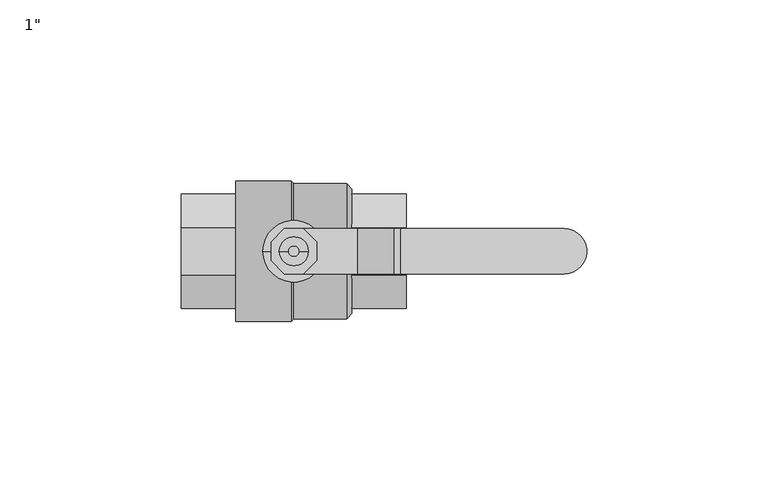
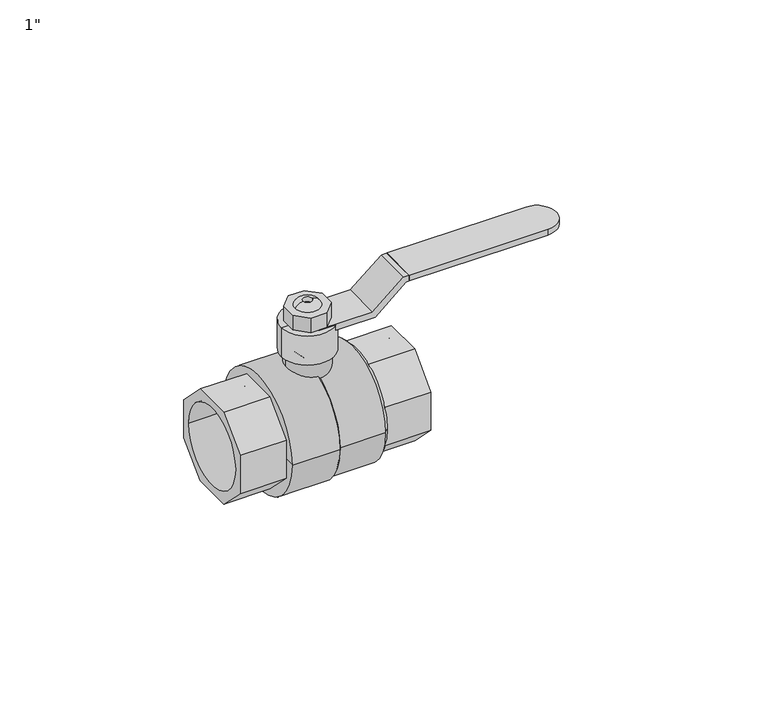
"""IFC4 building model written with IfcOpenShell, lengths in millimetres: pipe fitting geometry."""

from ifc_helpers import new_model, si_unit, point, frame, frame_2d, origin, origin_with_axes, origin_2d, place, context, project, spatial, polyline, circle_curve, ellipse_curve, trimmed, segment, composite_curve, outline, extrude, source, transform, mapped, element, save
from ifc_brep_helpers import plane_surface, cylinder_surface, revolved_surface, advanced_brep


def pipe_fitting_b7146942(model_context):
    return source(origin(), model_context, "Body", "SolidModel", [
        advanced_brep(
        [(1.5, 0.0, 38.0), (-1.5, 0.0, 38.0), (-4.0, 0.0, 38.0), (4.0, 0.0, 38.0), (1.5, 0.0, 39.5), (-1.5, 0.0, 39.5)],
        [
            (0, 1, circle_curve(frame((0.0, 0.0, 38.0), z_axis=(0.0, 0.0, 1.0), x_axis=(-1.0, 0.0, 0.0)), 1.5)),
            (1, 2),
            (2, 3, circle_curve(frame((0.0, 0.0, 38.0), z_axis=(0.0, 0.0, -1.0), x_axis=(-1.0, 0.0, 0.0)), 4.0)),
            (3, 0),
            (1, 0, circle_curve(frame((0.0, 0.0, 38.0), z_axis=(0.0, 0.0, 1.0), x_axis=(-1.0, 0.0, 0.0)), 1.5)),
            (3, 2, circle_curve(frame((0.0, 0.0, 38.0), z_axis=(0.0, 0.0, -1.0), x_axis=(-1.0, 0.0, 0.0)), 4.0)),
            (4, 5, circle_curve(frame((0.0, 0.0, 39.5), z_axis=(0.0, 0.0, 1.0), x_axis=(-1.0, 0.0, 0.0)), 1.5)),
            (5, 1),
            (0, 4),
            (5, 4, circle_curve(frame((0.0, 0.0, 39.5), z_axis=(0.0, 0.0, 1.0), x_axis=(-1.0, 0.0, 0.0)), 1.5)),
            (2, 5, circle_curve(frame((-1.6606207, 0.0, 36.9343679), z_axis=(0.0, 1.0, 0.0), x_axis=(1.0, 0.0, 0.0)), 2.570655)),
            (4, 3, circle_curve(frame((1.6606207, 0.0, 36.9343679), z_axis=(0.0, 1.0, 0.0), x_axis=(-1.0, 0.0, 0.0)), 2.570655)),
        ],
        [
            plane_surface(frame((0.0, 0.0, 38.0), z_axis=(0.0, 0.0, -1.0), x_axis=(-1.0, 0.0, 0.0))),
            revolved_surface(polyline([(-1.5, 0.0, 38.0), (-1.5, 0.0, 39.5)]), (0.0, 0.0, 2223.8150031), (0.0, 0.0, -1.0)),
            revolved_surface(trimmed(ellipse_curve(frame((-1.6606207, 0.0, 36.9343679), z_axis=(0.0, -1.0, 0.0), x_axis=(1.0, 0.0, 0.0)), 2.570655, 2.570655), [point((-1.5, 0.0, 39.5))], [point((-4.0, 0.0, 38.0))], True, "CARTESIAN"), (0.0, 0.0, 2223.8150031), (0.0, 0.0, -1.0)),
        ],
        [
            (0, [[1, 2, 3, 4]]),
            (0, [[5, -4, 6, -2]]),
            (1, [[7, 8, -1, 9]]),
            (1, [[10, -9, -5, -8]]),
            (2, [[-3, 11, -7, 12]]),
            (2, [[-6, -12, -10, -11]]),
        ],
    ),
        extrude(outline(polyline([(-6.2769553, 2.6), (-2.6, 6.2769553), (2.6, 6.2769553), (6.2769553, 2.6), (6.2769553, -2.6), (2.6, -6.2769553), (-2.6, -6.2769553), (-6.2769553, -2.6), (-6.2769553, 2.6)])), frame((0.0, 0.0, 33.0), z_axis=(0.0, 0.0, 1.0), x_axis=(1.0, 0.0, 0.0)), (0.0, 0.0, 1.0), 5.0),
        extrude(outline(composite_curve([segment(trimmed(circle_curve(frame_2d((74.52, 0.0)), 6.25), [point((74.52, 6.25))], [point((74.52, -6.25))], False, "CARTESIAN"), True, "CONTINUOUS"), segment(polyline([(74.52, -6.25), (29.52, -6.25), (29.52, 6.25), (74.52, 6.25)]), True, "CONTINUOUS")], self_intersect=False)), frame((0.0, 0.0, 39.5), z_axis=(0.0, 0.0, 1.0), x_axis=(1.0, 0.0, 0.0)), (0.0, 0.0, 1.0), 2.0),
        extrude(outline(polyline([(33.0, 17.52), (33.0, 0.0), (31.0, 0.0), (31.0, 18.35), (39.5, 28.3484271), (39.5, 29.52), (41.5, 29.52), (41.5, 27.52), (33.0, 17.52)])), frame((0.0, -6.25, 0.0), z_axis=(0.0, 1.0, 0.0), x_axis=(0.0, 0.0, 1.0)), (0.0, 0.0, 1.0), 12.5),
        advanced_brep(
        [(0.0, 0.0, 23.0), (-8.5, 0.0, 23.0), (8.5, 0.0, 23.0), (8.5, 0.0, 33.0), (-8.5, 0.0, 33.0), (0.0, 0.0, 33.0)],
        [
            (0, 1),
            (1, 2, circle_curve(frame((0.0, 0.0, 23.0), z_axis=(0.0, 0.0, -1.0), x_axis=(-1.0, 0.0, 0.0)), 8.5)),
            (2, 0),
            (2, 1, circle_curve(frame((0.0, 0.0, 23.0), z_axis=(0.0, 0.0, -1.0), x_axis=(-1.0, 0.0, 0.0)), 8.5)),
            (3, 4, circle_curve(frame((0.0, 0.0, 33.0), z_axis=(0.0, 0.0, 1.0), x_axis=(-1.0, 0.0, 0.0)), 8.5)),
            (4, 5),
            (5, 3),
            (4, 3, circle_curve(frame((0.0, 0.0, 33.0), z_axis=(0.0, 0.0, 1.0), x_axis=(-1.0, 0.0, 0.0)), 8.5)),
            (1, 4),
            (3, 2),
        ],
        [
            plane_surface(frame((0.0, 0.0, 23.0), z_axis=(0.0, 0.0, -1.0), x_axis=(-1.0, 0.0, 0.0))),
            plane_surface(frame((0.0, 0.0, 33.0), z_axis=(0.0, 0.0, 1.0), x_axis=(-1.0, 0.0, 0.0))),
            cylinder_surface(frame((0.0, 0.0, 2220.1650031), z_axis=(0.0, 0.0, -1.0), x_axis=(-1.0, 0.0, 0.0)), 8.5),
        ],
        [
            (0, [[1, 2, 3]]),
            (0, [[-3, 4, -1]]),
            (1, [[5, 6, 7]]),
            (1, [[8, -7, -6]]),
            (2, [[-2, 9, -5, 10]]),
            (2, [[-4, -10, -8, -9]]),
        ],
    ),
        extrude(outline(polyline([(15.8130988, 6.55), (15.8130988, -6.55), (6.55, -15.8130988), (-6.55, -15.8130988), (-15.8130988, -6.55), (-15.8130988, 6.55), (-6.55, 15.8130988), (6.55, 15.8130988), (15.8130988, 6.55)]), holes=[composite_curve([segment(trimmed(circle_curve(origin_2d(), 13.2), [point((13.2, 0.0))], [point((-13.2, 0.0))], True, "CARTESIAN"), True, "CONTINUOUS"), segment(trimmed(circle_curve(origin_2d(), 13.2), [point((-13.2, 0.0))], [point((13.2, 0.0))], True, "CARTESIAN"), True, "CONTINUOUS")], self_intersect=False)]), frame((-31.0, 0.0, 0.0), z_axis=(1.0, 0.0, 0.0), x_axis=(0.0, 1.0, 0.0)), (0.0, 0.0, 1.0), 15.0),
        extrude(outline(composite_curve([segment(trimmed(circle_curve(origin_2d(), 7.0), [point((-7.0, 0.0))], [point((7.0, 0.0))], False, "CARTESIAN"), True, "CONTINUOUS"), segment(trimmed(circle_curve(origin_2d(), 7.0), [point((7.0, 0.0))], [point((-7.0, 0.0))], False, "CARTESIAN"), True, "CONTINUOUS")], self_intersect=False)), origin_with_axes(), (0.0, 0.0, 1.0), 23.0),
        extrude(outline(polyline([(15.8130988, 6.55), (15.8130988, -6.55), (6.55, -15.8130988), (-6.55, -15.8130988), (-15.8130988, -6.55), (-15.8130988, 6.55), (-6.55, 15.8130988), (6.55, 15.8130988), (15.8130988, 6.55)]), holes=[composite_curve([segment(trimmed(circle_curve(origin_2d(), 13.2), [point((13.2, 0.0))], [point((-13.2, 0.0))], True, "CARTESIAN"), True, "CONTINUOUS"), segment(trimmed(circle_curve(origin_2d(), 13.2), [point((-13.2, 0.0))], [point((13.2, 0.0))], True, "CARTESIAN"), True, "CONTINUOUS")], self_intersect=False)]), frame((16.0, 0.0, 0.0), z_axis=(1.0, 0.0, 0.0), x_axis=(0.0, 1.0, 0.0)), (0.0, 0.0, 1.0), 15.0),
        advanced_brep(
        [(-16.0, -19.34, 0.0), (-16.0, 19.34, 0.0), (-0.7042017, 19.34, 0.0), (-0.7042017, -19.34, 0.0), (-16.0, 0.0, 0.0), (16.0, -17.2157864, 0.0), (16.0, 17.2157864, 0.0), (16.0, 0.0, 0.0), (0.0, -18.63, 0.0), (0.0, 18.63, 0.0), (14.5857864, 18.63, 0.0), (14.5857864, -18.63, 0.0)],
        [
            (0, 1, circle_curve(frame((-16.0, 0.0, 0.0), z_axis=(1.0, 0.0, 0.0), x_axis=(0.0, 1.0, 0.0)), 19.34)),
            (1, 2),
            (2, 3, circle_curve(frame((-0.7042017, 0.0, 0.0), z_axis=(-1.0, 0.0, 0.0), x_axis=(0.0, 1.0, 0.0)), 19.34)),
            (3, 0),
            (1, 0, circle_curve(frame((-16.0, 0.0, 0.0), z_axis=(1.0, 0.0, 0.0), x_axis=(0.0, 1.0, 0.0)), 19.34)),
            (3, 2, circle_curve(frame((-0.7042017, 0.0, 0.0), z_axis=(-1.0, 0.0, 0.0), x_axis=(0.0, 1.0, 0.0)), 19.34)),
            (4, 1),
            (0, 4),
            (5, 6, circle_curve(frame((16.0, 0.0, 0.0), z_axis=(1.0, 0.0, 0.0), x_axis=(0.0, 1.0, 0.0)), 17.2157864)),
            (6, 7),
            (7, 5),
            (6, 5, circle_curve(frame((16.0, 0.0, 0.0), z_axis=(1.0, 0.0, 0.0), x_axis=(0.0, 1.0, 0.0)), 17.2157864)),
            (8, 9, circle_curve(frame((0.0, 0.0, 0.0), z_axis=(1.0, 0.0, 0.0), x_axis=(0.0, 1.0, 0.0)), 18.63)),
            (9, 10),
            (10, 11, circle_curve(frame((14.5857864, 0.0, 0.0), z_axis=(-1.0, 0.0, 0.0), x_axis=(0.0, 1.0, 0.0)), 18.63)),
            (11, 8),
            (9, 8, circle_curve(frame((0.0, 0.0, 0.0), z_axis=(1.0, 0.0, 0.0), x_axis=(0.0, 1.0, 0.0)), 18.63)),
            (11, 10, circle_curve(frame((14.5857864, 0.0, 0.0), z_axis=(-1.0, 0.0, 0.0), x_axis=(0.0, 1.0, 0.0)), 18.63)),
            (10, 6),
            (5, 11),
            (2, 9),
            (8, 3),
        ],
        [
            cylinder_surface(frame((1995.7869923, 0.0, 0.0), z_axis=(-1.0, 0.0, 0.0), x_axis=(0.0, 1.0, 0.0)), 19.34),
            plane_surface(frame((-16.0, 0.0, 0.0), z_axis=(-1.0, 0.0, 0.0), x_axis=(0.0, 1.0, 0.0))),
            plane_surface(frame((16.0, 0.0, 0.0), z_axis=(1.0, 0.0, 0.0), x_axis=(0.0, 1.0, 0.0))),
            cylinder_surface(frame((1995.7869923, 0.0, 0.0), z_axis=(-1.0, 0.0, 0.0), x_axis=(0.0, 1.0, 0.0)), 18.63),
            revolved_surface(polyline([(16.0, 17.2157864, 0.0), (14.5857864, 18.63, 0.0)]), (1995.7869923, 0.0, 0.0), (-1.0, 0.0, 0.0)),
            revolved_surface(polyline([(0.0, 18.63, 0.0), (-0.7042017, 19.34, 0.0)]), (1995.7869923, 0.0, 0.0), (-1.0, 0.0, 0.0)),
        ],
        [
            (0, [[1, 2, 3, 4]]),
            (0, [[5, -4, 6, -2]]),
            (1, [[7, -1, 8]]),
            (1, [[-8, -5, -7]]),
            (2, [[9, 10, 11]]),
            (2, [[12, -11, -10]]),
            (3, [[13, 14, 15, 16]]),
            (3, [[17, -16, 18, -14]]),
            (4, [[-15, 19, -9, 20]]),
            (4, [[-18, -20, -12, -19]]),
            (5, [[-3, 21, -13, 22]]),
            (5, [[-6, -22, -17, -21]]),
        ],
    ),
    ])


if __name__ == "__main__":
    model = new_model("IFC4")
    model_context = context("Model", 3, world=origin())
    ifc_project = project(units=[si_unit("LENGTHUNIT", "METRE", prefix="MILLI")], contexts=[model_context])
    site = spatial("IfcSite", under=ifc_project)
    building = spatial("IfcBuilding", under=site)
    placement = place(None, origin())
    pipe_fitting_shape = pipe_fitting_b7146942(model_context)
    element("IfcPipeFitting", 1, ObjectType="AmancoWavin_Gas_Válvula Esfera FF Alavanca : 1\"", at=placement, inside=building, context=model_context, shape_type="MappedRepresentation", body=[
        mapped(pipe_fitting_shape, transform((0.0, 0.0, 0.0), x_axis=(1.0, 0.0, 0.0), y_axis=(0.0, 1.0, 0.0), z_axis=(0.0, 0.0, 1.0))),
    ])
    save(model, "model.ifc")
